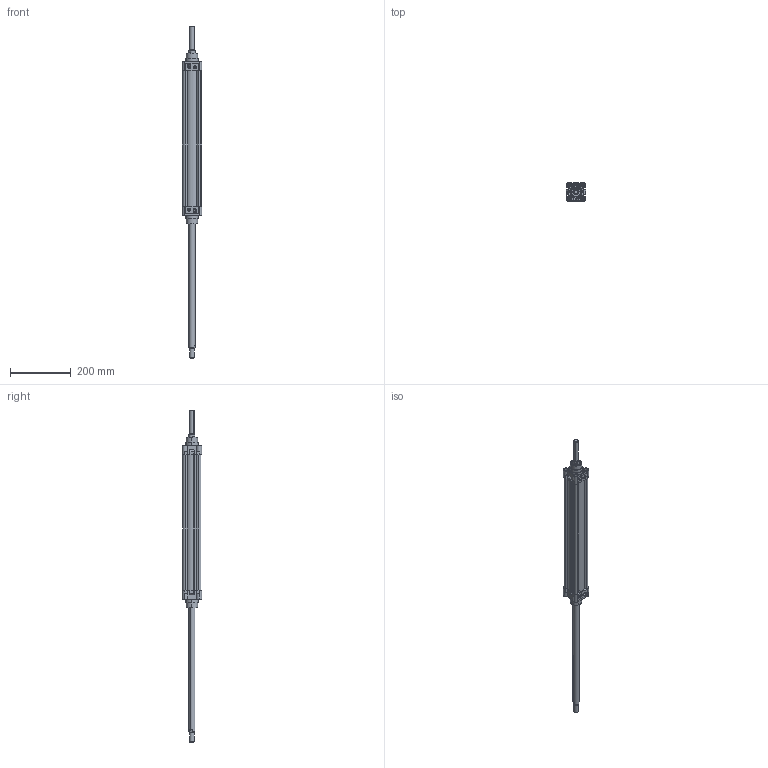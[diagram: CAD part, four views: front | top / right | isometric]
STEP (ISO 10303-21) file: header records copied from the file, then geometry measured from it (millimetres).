
FILE_DESCRIPTION (( 'STEP AP203' ), '1' );
FILE_NAME ('KDNT50X400CIFTMILLI-STROK AYARLI-CYLINDER.STEP', '2016-03-24T13:12:17', ( 'user' ), ( '' ), 'SwSTEP 2.0', 'SolidWorks 2013', '' );
FILE_SCHEMA (( 'CONFIG_CONTROL_DESIGN' ));
Length unit declared in the file: millimetre
Products named in the file (6): KDNT 50X400 BORU; ORTA PÝSTON 50 Çift Milli; SAPLAMALI M尳 STROK AYARLI 50x400; Piston Mili 50x400; KDNT50X400CIFTMILLI-STROK AYARLI-CYLINDER; 烰 KAPAK  50
Assembly tree (6 placements, depth 2):
  KDNT50X400CIFTMILLI-STROK AYARLI-CYLINDER
    烰 KAPAK  50  x2
    KDNT 50X400 BORU
    ORTA PÝSTON 50 Çift Milli
    SAPLAMALI M尳 STROK AYARLI 50x400
    Piston Mili 50x400
Bounding box: 64 x 64.3 x 1091.9 mm (x, y, z)
Volume: 888899.4 mm3; surface area: 411599.6 mm2
Topology: 13 solids, 13 shells, 844 faces, 2088 edges, 1349 vertices
Faces by surface type: cylinder 414, plane 306, cone 84, bspline 32, torus 8
Entity records: 20777 total; most frequent: CARTESIAN_POINT 7032, DIRECTION 2765, ORIENTED_EDGE 2720, EDGE_CURVE 1360, AXIS2_PLACEMENT_3D 1072, VERTEX_POINT 881, EDGE_LOOP 639, VECTOR 621
